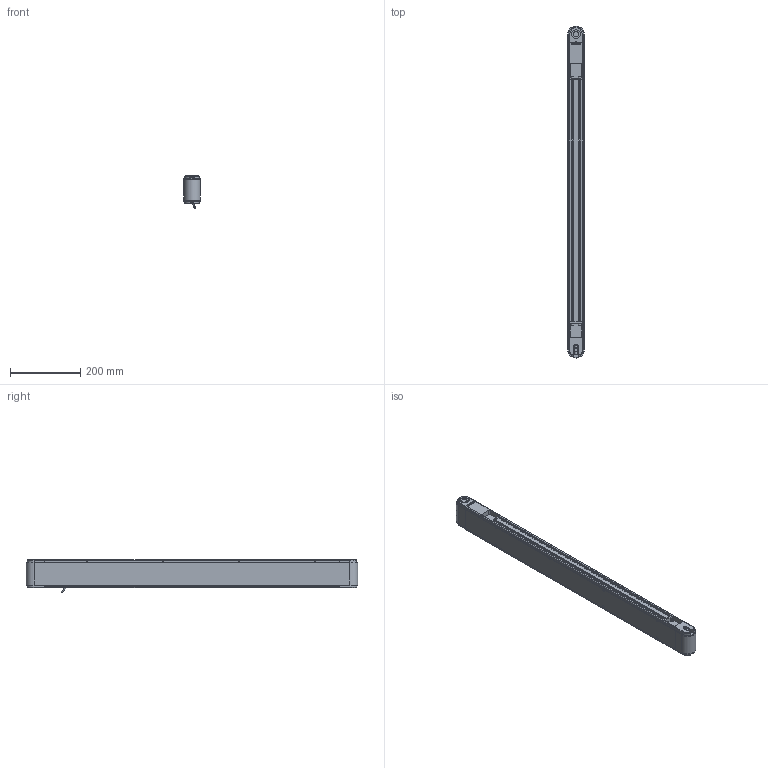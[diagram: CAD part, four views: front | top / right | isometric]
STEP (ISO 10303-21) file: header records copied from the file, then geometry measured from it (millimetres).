
FILE_DESCRIPTION(/* description */ (''),/* implementation_level */ '2;1');
FILE_NAME(/* name */ 'G:\DATEN\CAD\Förderband\Marketing\3D-Modelle (Standard)\FR-40-80\FR-40-80-900-K.stp',/* time_stamp */ '2019-05-08T08:19:12+02:00',/* author */ ('melanie.ochs'),/* organization */ (''),/* preprocessor_version */ 'ST-DEVELOPER v17',/* originating_system */ 'Autodesk Inventor 2019',/* authorisation */ '');
FILE_SCHEMA (('CONFIG_CONTROL_DESIGN'));
Length unit declared in the file: centimetre
Products named in the file (1): FR-40-80-900-K
Bounding box: 46.6 x 946.6 x 92.72 mm (x, y, z)
Volume: 1391041.7 mm3; surface area: 930572.2 mm2
Topology: 31 solids, 32 shells, 1013 faces, 2757 edges, 1876 vertices
Faces by surface type: plane 504, cylinder 287, bspline 122, cone 70, torus 30
Full cylindrical faces by diameter (mm): 1 x6, 4 x6, 4.3 x4, 4.64 x2, 4.917 x1, 5 x11, 5.5 x8, 6 x4, 6.773 x1, 8 x5, 8.3 x16, 8.5 x8, 8.773 x1, 10 x1, 11 x1, 12 x3, 15 x4, 20 x2, 25 x2, 28 x4, 44 x3
Entity records: 34508 total; most frequent: CARTESIAN_POINT 8002, ORIENTED_EDGE 5484, DIRECTION 5041, EDGE_CURVE 2742, VERTEX_POINT 1876, AXIS2_PLACEMENT_3D 1777, LINE 1487, VECTOR 1487
